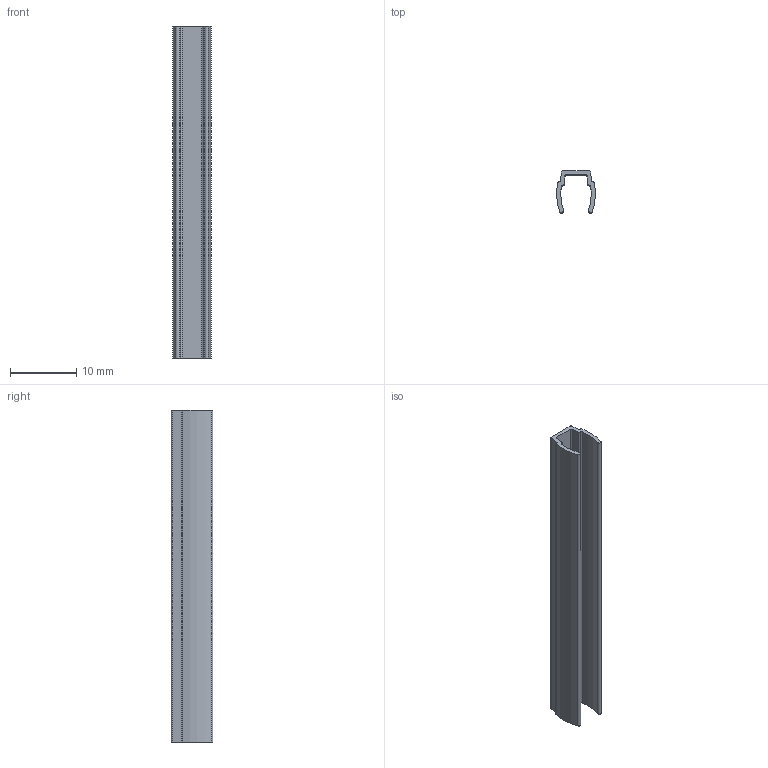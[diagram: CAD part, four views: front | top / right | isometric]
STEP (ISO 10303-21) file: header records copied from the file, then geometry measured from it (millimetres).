
FILE_DESCRIPTION(/* description */ (''),/* implementation_level */ '2;1');
FILE_NAME(/* name */ '\\AM-PUBLIC\Share\05.新型錄\AM4系列\4系列-3D\03.4系列-AMB-連接件\AMF-04HA.stp',/* time_stamp */ '2021-03-04T14:48:17+08:00',/* author */ ('AM'),/* organization */ (''),/* preprocessor_version */ 'ST-DEVELOPER v16.5',/* originating_system */ 'Autodesk Inventor 2017',/* authorisation */ '');
FILE_SCHEMA (('AUTOMOTIVE_DESIGN { 1 0 10303 214 3 1 1 }'));
Length unit declared in the file: millimetre
Products named in the file (1): 零件2
Bounding box: 5.78 x 6.3 x 50 mm (x, y, z)
Volume: 496.6 mm3; surface area: 1692.8 mm2
Topology: 1 solids, 1 shells, 28 faces, 78 edges, 52 vertices
Faces by surface type: cylinder 16, plane 12
Entity records: 938 total; most frequent: DIRECTION 168, CARTESIAN_POINT 159, ORIENTED_EDGE 156, EDGE_CURVE 78, AXIS2_PLACEMENT_3D 61, VERTEX_POINT 52, LINE 46, VECTOR 46
